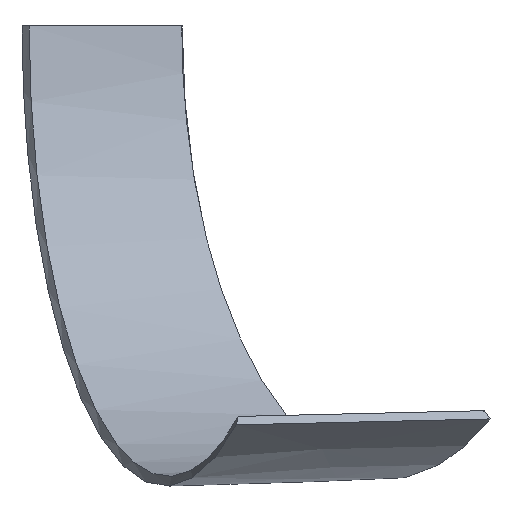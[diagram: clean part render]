
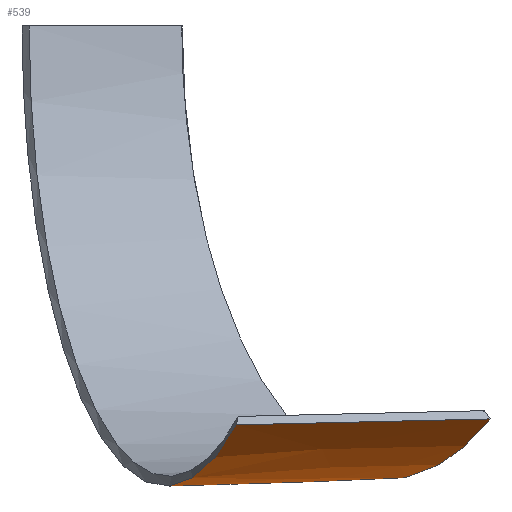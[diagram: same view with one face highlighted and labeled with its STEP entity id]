
A CAD part, front view. The second image highlights one B-rep face of the part: STEP entity #539.
In plain terms, the highlighted free-form (B-spline) face has degree [3, 3] with [13, 4] control points.
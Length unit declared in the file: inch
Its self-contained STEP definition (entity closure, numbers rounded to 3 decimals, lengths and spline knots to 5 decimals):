
#13 = CARTESIAN_POINT ( 'NONE',  ( 41.51024, -93.16463, -30.70668 ) ) ;
#54 = B_SPLINE_SURFACE_WITH_KNOTS ( 'NONE', 3, 3, ( 
 ( #849, #232, #245, #1090 ),
 ( #488, #1223, #713, #593 ),
 ( #1205, #621, #1197, #1347 ),
 ( #252, #1447, #1463, #1230 ),
 ( #601, #1338, #1578, #734 ),
 ( #1570, #129, #615, #107 ),
 ( #480, #967, #13, #1454 ),
 ( #136, #504, #986, #1476 ),
 ( #843, #1329, #240, #726 ),
 ( #1213, #942, #64, #1300 ),
 ( #673, #1411, #192, #338 ),
 ( #842, #1328, #1569, #115 ),
 ( #836, #966, #592, #1315 ) ),
 .UNSPECIFIED., .F., .F., .F.,
 ( 4, 3, 3, 3, 4 ),
 ( 4, 4 ),
 ( 0., 0.25, 0.5, 0.75, 1. ),
 ( 0., 1. ),
 .UNSPECIFIED. ) ;
#64 = CARTESIAN_POINT ( 'NONE',  ( 36.26788, -81.34872, -17.75536 ) ) ;
#66 = CARTESIAN_POINT ( 'NONE',  ( 44.04221, -86.43306, -27.46122 ) ) ;
#82 = CARTESIAN_POINT ( 'NONE',  ( 38.4923, -75.48779, -6.24503 ) ) ;
#107 = CARTESIAN_POINT ( 'NONE',  ( 48.88466, -95.98178, -33.64427 ) ) ;
#115 = CARTESIAN_POINT ( 'NONE',  ( 38.4923, -75.48779, -6.24503 ) ) ;
#120 = VERTEX_POINT ( 'NONE', #1293 ) ;
#129 = CARTESIAN_POINT ( 'NONE',  ( 38.48857, -100.15745, -33.98293 ) ) ;
#136 = CARTESIAN_POINT ( 'NONE',  ( 29.91716, -91.91277, -27.8768 ) ) ;
#140 = CARTESIAN_POINT ( 'NONE',  ( 42.70313, -131.06916, -31.04507 ) ) ;
#192 = CARTESIAN_POINT ( 'NONE',  ( 35.00974, -78.51269, -12.37757 ) ) ;
#208 = EDGE_CURVE ( 'NONE', #599, #120, #1052, .T. ) ;
#210 = CARTESIAN_POINT ( 'NONE',  ( 28.51608, -87.62062, -23.36556 ) ) ;
#232 = CARTESIAN_POINT ( 'NONE',  ( 49.26779, -128.25366, -30.89213 ) ) ;
#240 = CARTESIAN_POINT ( 'NONE',  ( 37.52602, -84.18475, -23.13314 ) ) ;
#245 = CARTESIAN_POINT ( 'NONE',  ( 55.83245, -125.43815, -30.7392 ) ) ;
#252 = CARTESIAN_POINT ( 'NONE',  ( 37.15188, -114.07053, -35.81218 ) ) ;
#255 = CARTESIAN_POINT ( 'NONE',  ( 30.19407, -78.53079, -0.06384 ) ) ;
#258 = VERTEX_POINT ( 'NONE', #322 ) ;
#322 = CARTESIAN_POINT ( 'NONE',  ( 26.04749, -80.05728, -0.06384 ) ) ;
#325 = EDGE_CURVE ( 'NONE', #1488, #258, #961, .T. ) ;
#338 = CARTESIAN_POINT ( 'NONE',  ( 39.23163, -76.94601, -12.31541 ) ) ;
#347 = CARTESIAN_POINT ( 'NONE',  ( 59.97263, -117.84299, -33.66775 ) ) ;
#354 = CARTESIAN_POINT ( 'NONE',  ( 49.26779, -128.25366, -30.89213 ) ) ;
#459 = CARTESIAN_POINT ( 'NONE',  ( 26.04749, -80.05728, -0.06384 ) ) ;
#466 = CARTESIAN_POINT ( 'NONE',  ( 62.3971, -122.62263, -30.58627 ) ) ;
#480 = CARTESIAN_POINT ( 'NONE',  ( 31.60384, -97.07902, -31.01452 ) ) ;
#488 = CARTESIAN_POINT ( 'NONE',  ( 41.01437, -125.89821, -34.17339 ) ) ;
#504 = CARTESIAN_POINT ( 'NONE',  ( 34.62551, -90.08621, -27.73828 ) ) ;
#539 = ADVANCED_FACE ( 'NONE', ( #856 ), #54, .T. ) ;
#579 = CARTESIAN_POINT ( 'NONE',  ( 42.03099, -82.46681, -23.01692 ) ) ;
#586 = CARTESIAN_POINT ( 'NONE',  ( 26.56598, -81.64605, -12.50187 ) ) ;
#592 = CARTESIAN_POINT ( 'NONE',  ( 34.34066, -77.0043, -0.06384 ) ) ;
#593 = CARTESIAN_POINT ( 'NONE',  ( 59.97263, -117.84299, -33.66775 ) ) ;
#599 = VERTEX_POINT ( 'NONE', #712 ) ;
#601 = CARTESIAN_POINT ( 'NONE',  ( 35.20391, -108.1052, -35.80685 ) ) ;
#607 = ORIENTED_EDGE ( 'NONE', *, *, #325, .T. ) ;
#613 = CARTESIAN_POINT ( 'NONE',  ( 55.83245, -125.43815, -30.7392 ) ) ;
#615 = CARTESIAN_POINT ( 'NONE',  ( 43.68662, -98.06962, -33.81361 ) ) ;
#621 = CARTESIAN_POINT ( 'NONE',  ( 45.1413, -117.49873, -35.64062 ) ) ;
#651 = EDGE_CURVE ( 'NONE', #120, #1488, #826, .T. ) ;
#673 = CARTESIAN_POINT ( 'NONE',  ( 26.56598, -81.64605, -12.50187 ) ) ;
#712 = CARTESIAN_POINT ( 'NONE',  ( 38.48724, -75.47782, -0.06385 ) ) ;
#713 = CARTESIAN_POINT ( 'NONE',  ( 53.65321, -120.52808, -33.83629 ) ) ;
#719 = CARTESIAN_POINT ( 'NONE',  ( 42.70313, -131.06916, -31.04507 ) ) ;
#726 = CARTESIAN_POINT ( 'NONE',  ( 42.03099, -82.46681, -23.01692 ) ) ;
#734 = CARTESIAN_POINT ( 'NONE',  ( 51.63135, -101.39754, -35.27501 ) ) ;
#744 = CARTESIAN_POINT ( 'NONE',  ( 34.34066, -77.0043, -0.06384 ) ) ;
#814 = CARTESIAN_POINT ( 'NONE',  ( 51.63135, -101.39754, -35.27501 ) ) ;
#824 = B_SPLINE_CURVE_WITH_KNOTS ( 'NONE', 3,
 ( #1351, #255, #744, #1574 ),
 .UNSPECIFIED., .F., .F.,
 ( 4, 4 ),
 ( 0., 1. ),
 .UNSPECIFIED. ) ;
#826 = B_SPLINE_CURVE_WITH_KNOTS ( 'NONE', 3,
 ( #466, #613, #354, #719 ),
 .UNSPECIFIED., .F., .F.,
 ( 4, 4 ),
 ( 0., 1. ),
 .UNSPECIFIED. ) ;
#836 = CARTESIAN_POINT ( 'NONE',  ( 26.04749, -80.05728, -0.06384 ) ) ;
#842 = CARTESIAN_POINT ( 'NONE',  ( 26.05096, -80.06791, -6.3391 ) ) ;
#843 = CARTESIAN_POINT ( 'NONE',  ( 28.51608, -87.62062, -23.36556 ) ) ;
#849 = CARTESIAN_POINT ( 'NONE',  ( 42.70313, -131.06916, -31.04507 ) ) ;
#856 = FACE_OUTER_BOUND ( 'NONE', #1195, .T. ) ;
#936 = CARTESIAN_POINT ( 'NONE',  ( 35.20391, -108.1052, -35.80685 ) ) ;
#942 = CARTESIAN_POINT ( 'NONE',  ( 31.90446, -82.99103, -17.84454 ) ) ;
#944 = CARTESIAN_POINT ( 'NONE',  ( 62.3971, -122.62263, -30.58627 ) ) ;
#961 = B_SPLINE_CURVE_WITH_KNOTS ( 'NONE', 3,
 ( #1563, #1555, #1055, #936, #1302, #1421, #210, #586, #1065, #459 ),
 .UNSPECIFIED., .F., .F.,
 ( 4, 2, 2, 2, 4 ),
 ( 0., 0.25, 0.5, 0.75, 1. ),
 .UNSPECIFIED. ) ;
#966 = CARTESIAN_POINT ( 'NONE',  ( 30.19407, -78.53079, -0.06384 ) ) ;
#967 = CARTESIAN_POINT ( 'NONE',  ( 36.55704, -95.12183, -30.86061 ) ) ;
#986 = CARTESIAN_POINT ( 'NONE',  ( 39.33386, -88.25964, -27.59976 ) ) ;
#1015 = ORIENTED_EDGE ( 'NONE', *, *, #1174, .T. ) ;
#1052 = B_SPLINE_CURVE_WITH_KNOTS ( 'NONE', 3,
 ( #1439, #82, #1184, #579, #66, #1176, #814, #1191, #347, #944 ),
 .UNSPECIFIED., .F., .F.,
 ( 4, 2, 2, 2, 4 ),
 ( 0., 0.25, 0.5, 0.75, 1. ),
 .UNSPECIFIED. ) ;
#1055 = CARTESIAN_POINT ( 'NONE',  ( 39.09986, -120.03585, -35.81751 ) ) ;
#1065 = CARTESIAN_POINT ( 'NONE',  ( 26.05096, -80.06791, -6.3391 ) ) ;
#1090 = CARTESIAN_POINT ( 'NONE',  ( 62.3971, -122.62263, -30.58627 ) ) ;
#1094 = ORIENTED_EDGE ( 'NONE', *, *, #651, .T. ) ;
#1174 = EDGE_CURVE ( 'NONE', #258, #599, #824, .T. ) ;
#1176 = CARTESIAN_POINT ( 'NONE',  ( 48.88466, -95.98178, -33.64427 ) ) ;
#1184 = CARTESIAN_POINT ( 'NONE',  ( 39.23163, -76.94601, -12.31541 ) ) ;
#1191 = CARTESIAN_POINT ( 'NONE',  ( 57.22417, -112.42443, -35.28685 ) ) ;
#1195 = EDGE_LOOP ( 'NONE', ( #607, #1015, #1227, #1094 ) ) ;
#1197 = CARTESIAN_POINT ( 'NONE',  ( 51.18274, -114.96159, -35.46374 ) ) ;
#1205 = CARTESIAN_POINT ( 'NONE',  ( 39.09986, -120.03585, -35.81751 ) ) ;
#1213 = CARTESIAN_POINT ( 'NONE',  ( 27.54103, -84.63334, -17.93372 ) ) ;
#1223 = CARTESIAN_POINT ( 'NONE',  ( 47.3338, -123.21315, -34.00484 ) ) ;
#1227 = ORIENTED_EDGE ( 'NONE', *, *, #208, .T. ) ;
#1230 = CARTESIAN_POINT ( 'NONE',  ( 54.42776, -106.91099, -35.28093 ) ) ;
#1293 = CARTESIAN_POINT ( 'NONE',  ( 62.3971, -122.62263, -30.58627 ) ) ;
#1300 = CARTESIAN_POINT ( 'NONE',  ( 40.63131, -79.70641, -17.66616 ) ) ;
#1302 = CARTESIAN_POINT ( 'NONE',  ( 33.29052, -102.24526, -34.15225 ) ) ;
#1315 = CARTESIAN_POINT ( 'NONE',  ( 38.48724, -75.47782, -0.06385 ) ) ;
#1328 = CARTESIAN_POINT ( 'NONE',  ( 30.19807, -78.54121, -6.30775 ) ) ;
#1329 = CARTESIAN_POINT ( 'NONE',  ( 33.02105, -85.90269, -23.24936 ) ) ;
#1338 = CARTESIAN_POINT ( 'NONE',  ( 40.67973, -105.86933, -35.62958 ) ) ;
#1347 = CARTESIAN_POINT ( 'NONE',  ( 57.22417, -112.42443, -35.28685 ) ) ;
#1351 = CARTESIAN_POINT ( 'NONE',  ( 26.04749, -80.05728, -0.06384 ) ) ;
#1411 = CARTESIAN_POINT ( 'NONE',  ( 30.78786, -80.07937, -12.43972 ) ) ;
#1421 = CARTESIAN_POINT ( 'NONE',  ( 29.91716, -91.91277, -27.8768 ) ) ;
#1439 = CARTESIAN_POINT ( 'NONE',  ( 38.48724, -75.47782, -0.06385 ) ) ;
#1447 = CARTESIAN_POINT ( 'NONE',  ( 42.91052, -111.68403, -35.6351 ) ) ;
#1454 = CARTESIAN_POINT ( 'NONE',  ( 46.46343, -91.20742, -30.55275 ) ) ;
#1463 = CARTESIAN_POINT ( 'NONE',  ( 48.66914, -109.29752, -35.45802 ) ) ;
#1476 = CARTESIAN_POINT ( 'NONE',  ( 44.04221, -86.43306, -27.46122 ) ) ;
#1488 = VERTEX_POINT ( 'NONE', #140 ) ;
#1555 = CARTESIAN_POINT ( 'NONE',  ( 41.01437, -125.89821, -34.17339 ) ) ;
#1563 = CARTESIAN_POINT ( 'NONE',  ( 42.70313, -131.06916, -31.04507 ) ) ;
#1569 = CARTESIAN_POINT ( 'NONE',  ( 34.34518, -77.0145, -6.27639 ) ) ;
#1570 = CARTESIAN_POINT ( 'NONE',  ( 33.29052, -102.24526, -34.15225 ) ) ;
#1574 = CARTESIAN_POINT ( 'NONE',  ( 38.48724, -75.47782, -0.06385 ) ) ;
#1578 = CARTESIAN_POINT ( 'NONE',  ( 46.15554, -103.63345, -35.4523 ) ) ;
